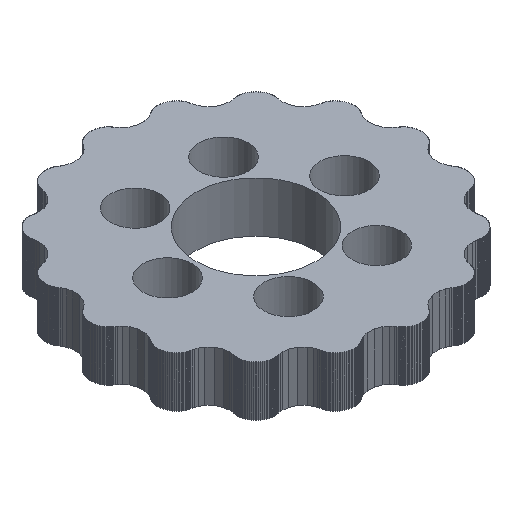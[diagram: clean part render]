
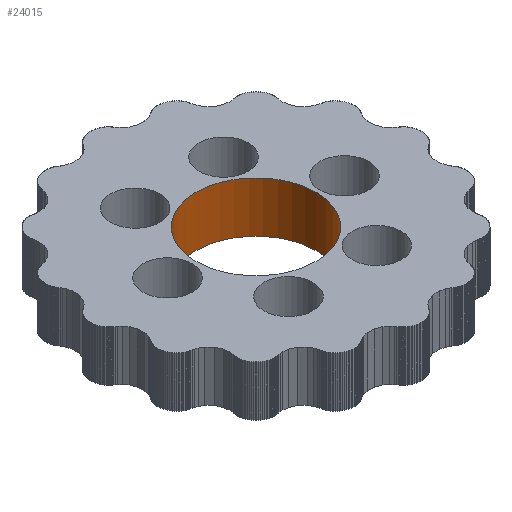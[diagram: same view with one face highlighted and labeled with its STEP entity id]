
A CAD part, isometric view. The second image highlights one B-rep face of the part: STEP entity #24015.
In plain terms, the highlighted cylindrical face has radius 9.5 mm (diameter 19 mm), a full revolution.
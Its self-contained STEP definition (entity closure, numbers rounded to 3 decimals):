
#5906 = EDGE_CURVE('',#5907,#5907,#5909,.T.);
#5907 = VERTEX_POINT('',#5908);
#5908 = CARTESIAN_POINT('',(9.5,0.,16.));
#5909 = CIRCLE('',#5910,9.5);
#5910 = AXIS2_PLACEMENT_3D('',#5911,#5912,#5913);
#5911 = CARTESIAN_POINT('',(0.,0.,16.));
#5912 = DIRECTION('',(0.,0.,1.));
#5913 = DIRECTION('',(1.,0.,-0.));
#11728 = EDGE_CURVE('',#11729,#11729,#11731,.T.);
#11729 = VERTEX_POINT('',#11730);
#11730 = CARTESIAN_POINT('',(9.5,0.,24.));
#11731 = CIRCLE('',#11732,9.5);
#11732 = AXIS2_PLACEMENT_3D('',#11733,#11734,#11735);
#11733 = CARTESIAN_POINT('',(0.,0.,24.));
#11734 = DIRECTION('',(0.,0.,1.));
#11735 = DIRECTION('',(1.,0.,-0.));
#24015 = ADVANCED_FACE('',(#24016),#24027,.F.);
#24016 = FACE_BOUND('',#24017,.F.);
#24017 = EDGE_LOOP('',(#24018,#24019,#24025,#24026));
#24018 = ORIENTED_EDGE('',*,*,#11728,.F.);
#24019 = ORIENTED_EDGE('',*,*,#24020,.F.);
#24020 = EDGE_CURVE('',#5907,#11729,#24021,.T.);
#24021 = LINE('',#24022,#24023);
#24022 = CARTESIAN_POINT('',(9.5,0.,15.));
#24023 = VECTOR('',#24024,1.);
#24024 = DIRECTION('',(0.,0.,1.));
#24025 = ORIENTED_EDGE('',*,*,#5906,.T.);
#24026 = ORIENTED_EDGE('',*,*,#24020,.T.);
#24027 = CYLINDRICAL_SURFACE('',#24028,9.5);
#24028 = AXIS2_PLACEMENT_3D('',#24029,#24030,#24031);
#24029 = CARTESIAN_POINT('',(0.,0.,15.));
#24030 = DIRECTION('',(0.,0.,1.));
#24031 = DIRECTION('',(1.,0.,-0.));
